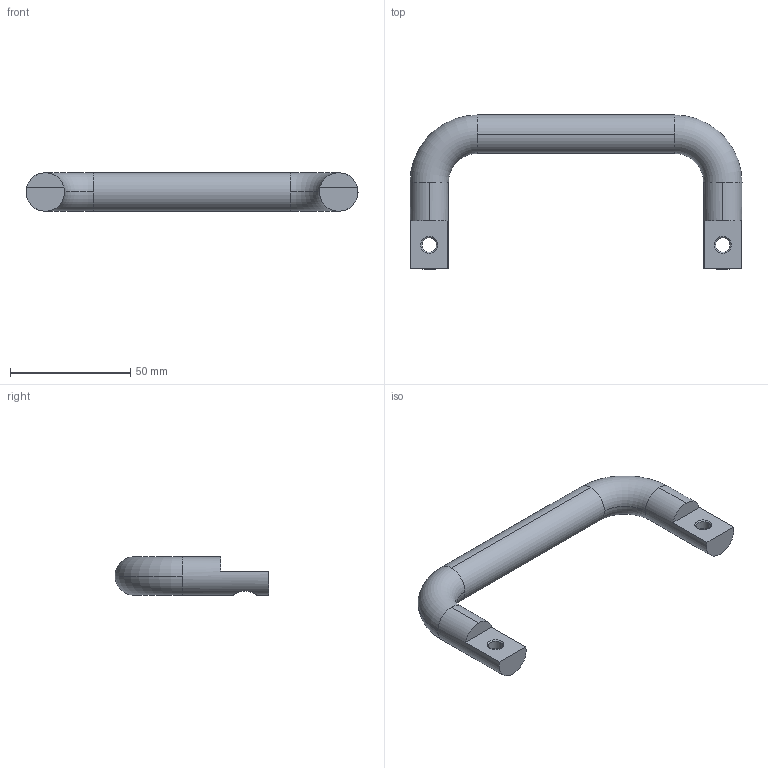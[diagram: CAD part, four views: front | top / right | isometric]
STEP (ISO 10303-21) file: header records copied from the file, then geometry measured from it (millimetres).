
FILE_DESCRIPTION (( 'STEP AP214' ), '1' );
FILE_NAME ('LS502.STEP', '2023-06-28T01:38:58', ( 'Windows 蚚誧' ), ( '' ), 'SwSTEP 2.0', 'SolidWorks 2019', '' );
FILE_SCHEMA (( 'AUTOMOTIVE_DESIGN' ));
Length unit declared in the file: millimetre
Products named in the file (1): LS502
Bounding box: 138 x 64 x 16 mm (x, y, z)
Volume: 39733.1 mm3; surface area: 11419.1 mm2
Topology: 1 solids, 1 shells, 30 faces, 80 edges, 52 vertices
Faces by surface type: cylinder 14, plane 8, torus 4, cone 4
Entity records: 1138 total; most frequent: CARTESIAN_POINT 319, DIRECTION 178, ORIENTED_EDGE 160, EDGE_CURVE 80, AXIS2_PLACEMENT_3D 75, VERTEX_POINT 52, CIRCLE 44, EDGE_LOOP 34
